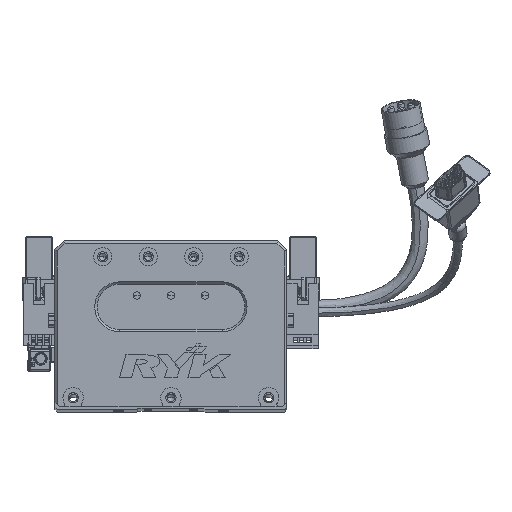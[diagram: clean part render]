
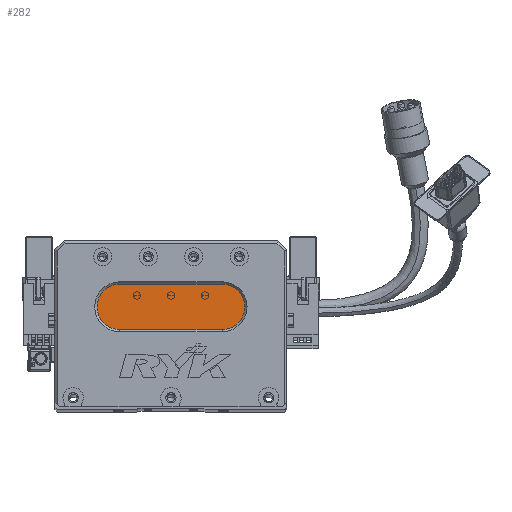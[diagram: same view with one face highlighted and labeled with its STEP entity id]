
A CAD part, top view. The second image highlights one B-rep face of the part: STEP entity #282.
In plain terms, the highlighted planar face has unit normal (0, 0, 1) as drawn and (0, 0, -1) by its records, which use the part's own axes.
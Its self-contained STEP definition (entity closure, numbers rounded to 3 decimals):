
#69 = DIRECTION ( 'NONE',  ( -1., 0., 0. ) ) ;
#282 = ADVANCED_FACE ( 'NONE', ( #3273 ), #42233, .T. ) ;
#1219 = DIRECTION ( 'NONE',  ( -1., 0., 0. ) ) ;
#3273 = FACE_OUTER_BOUND ( 'NONE', #19732, .T. ) ;
#5355 = ORIENTED_EDGE ( 'NONE', *, *, #14705, .T. ) ;
#6421 = CARTESIAN_POINT ( 'NONE',  ( 73.5, 44., 13. ) ) ;
#7833 = AXIS2_PLACEMENT_3D ( 'NONE', #6421, #47641, #22027 ) ;
#8701 = CARTESIAN_POINT ( 'NONE',  ( 18.5, 44., 13. ) ) ;
#9142 = DIRECTION ( 'NONE',  ( 0., 0., -1. ) ) ;
#10039 = EDGE_CURVE ( 'NONE', #26444, #36581, #52097, .T. ) ;
#10365 = AXIS2_PLACEMENT_3D ( 'NONE', #21535, #56844, #69 ) ;
#10917 = CARTESIAN_POINT ( 'NONE',  ( 28.5, 34., 13. ) ) ;
#12020 = AXIS2_PLACEMENT_3D ( 'NONE', #53924, #23166, #29679 ) ;
#14549 = CARTESIAN_POINT ( 'NONE',  ( 73.5, 44., 13. ) ) ;
#14705 = EDGE_CURVE ( 'NONE', #65595, #35746, #28790, .T. ) ;
#14893 = VECTOR ( 'NONE', #44037, 1000. ) ;
#15660 = AXIS2_PLACEMENT_3D ( 'NONE', #14549, #9142, #24931 ) ;
#18093 = CARTESIAN_POINT ( 'NONE',  ( 73.5, 34., 13. ) ) ;
#18972 = LINE ( 'NONE', #23845, #14893 ) ;
#19732 = EDGE_LOOP ( 'NONE', ( #5355, #65850, #35890, #47347, #25668 ) ) ;
#20479 = CARTESIAN_POINT ( 'NONE',  ( 73.5, 54., 13. ) ) ;
#21535 = CARTESIAN_POINT ( 'NONE',  ( 28.5, 44., 13. ) ) ;
#22027 = DIRECTION ( 'NONE',  ( -1., 0., 0. ) ) ;
#23166 = DIRECTION ( 'NONE',  ( 0., 0., -1. ) ) ;
#23845 = CARTESIAN_POINT ( 'NONE',  ( 73.5, 54., 13. ) ) ;
#24931 = DIRECTION ( 'NONE',  ( -1., 0., 0. ) ) ;
#25668 = ORIENTED_EDGE ( 'NONE', *, *, #44130, .T. ) ;
#26444 = VERTEX_POINT ( 'NONE', #8701 ) ;
#27444 = CARTESIAN_POINT ( 'NONE',  ( 73.5, 34., 13. ) ) ;
#28790 = CIRCLE ( 'NONE', #15660, 10. ) ;
#29679 = DIRECTION ( 'NONE',  ( -1., 0., 0. ) ) ;
#35746 = VERTEX_POINT ( 'NONE', #18093 ) ;
#35890 = ORIENTED_EDGE ( 'NONE', *, *, #56886, .T. ) ;
#36581 = VERTEX_POINT ( 'NONE', #51101 ) ;
#42233 = PLANE ( 'NONE',  #7833 ) ;
#44037 = DIRECTION ( 'NONE',  ( 1., 0., 0. ) ) ;
#44130 = EDGE_CURVE ( 'NONE', #36581, #65595, #18972, .T. ) ;
#45057 = LINE ( 'NONE', #27444, #57897 ) ;
#47347 = ORIENTED_EDGE ( 'NONE', *, *, #10039, .T. ) ;
#47641 = DIRECTION ( 'NONE',  ( 0., 0., -1. ) ) ;
#51101 = CARTESIAN_POINT ( 'NONE',  ( 28.5, 54., 13. ) ) ;
#51675 = EDGE_CURVE ( 'NONE', #35746, #59587, #45057, .T. ) ;
#52097 = CIRCLE ( 'NONE', #12020, 10. ) ;
#53924 = CARTESIAN_POINT ( 'NONE',  ( 28.5, 44., 13. ) ) ;
#56844 = DIRECTION ( 'NONE',  ( 0., 0., -1. ) ) ;
#56886 = EDGE_CURVE ( 'NONE', #59587, #26444, #58631, .T. ) ;
#57897 = VECTOR ( 'NONE', #1219, 1000. ) ;
#58631 = CIRCLE ( 'NONE', #10365, 10. ) ;
#59587 = VERTEX_POINT ( 'NONE', #10917 ) ;
#65595 = VERTEX_POINT ( 'NONE', #20479 ) ;
#65850 = ORIENTED_EDGE ( 'NONE', *, *, #51675, .T. ) ;
